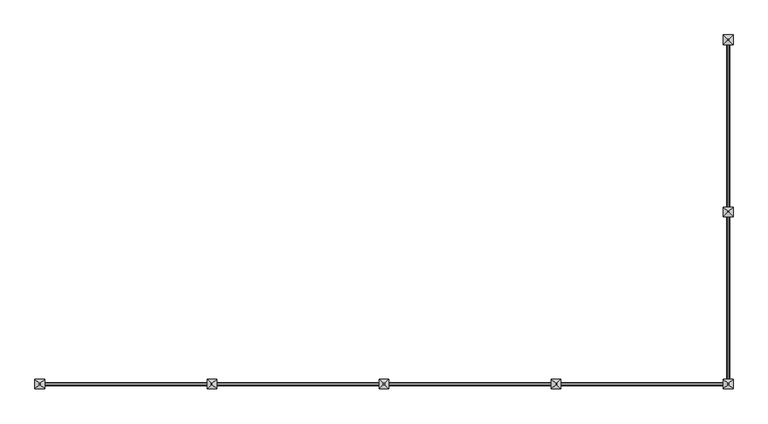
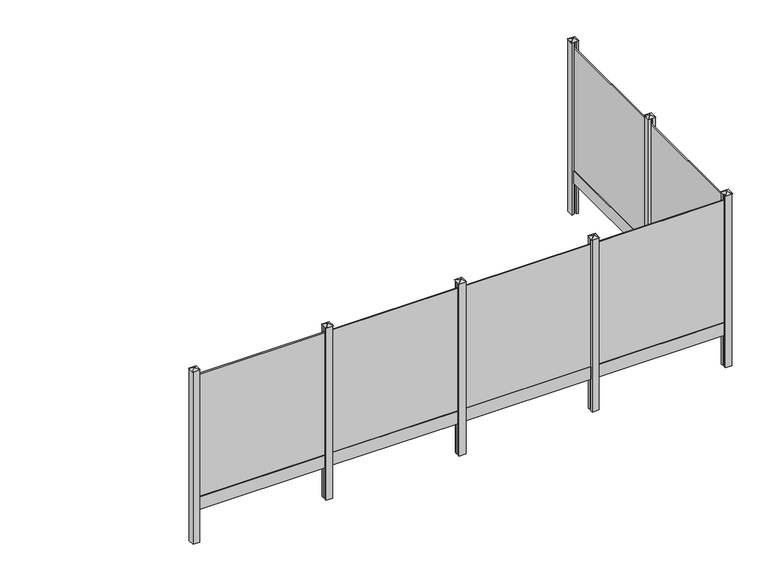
"""IFC4 building model written with IfcOpenShell, lengths in millimetres: railing geometry, Mehat - Railing - Plaque de Soubassement - Pour clôture composite - 196x20x3.5/1.8 cm."""

from ifc_helpers import new_model, si_unit, frame, origin, origin_with_axes, place, context, project, spatial, polyline, outline, extrude, faceted_brep, source, transform, mapped, element, save


def railing_a0a83704(model_context):
    return source(origin(), model_context, "Body", "SolidModel", [
        extrude(outline(polyline([(-1103.7483484, 8632.5056064), (-1120.7483484, 8632.5056064), (-1120.7483484, 10592.5056064), (-1103.7483484, 10592.5056064), (-1103.7483484, 8632.5056064)])), frame((0.0, 0.0, 200.0), z_axis=(0.0, 0.0, 1.0), x_axis=(1.0, 0.0, 0.0)), (0.0, 0.0, 1.0), 1950.0),
        extrude(outline(polyline([(-1129.7483484, 10592.5056064), (-1111.7483484, 10592.5056064), (-1094.7483484, 10567.5056064), (-1094.7483484, 8657.5056064), (-1111.7483484, 8632.5056064), (-1129.7483484, 8632.5056064), (-1129.7483484, 10592.5056064)])), origin_with_axes(), (0.0, 0.0, 1.0), 200.0),
        extrude(outline(polyline([(-1062.2483484, 8557.5056064), (-1094.7483484, 8557.5056064), (-1094.7483484, 8582.5056064), (-1129.7483484, 8582.5056064), (-1129.7483484, 8557.5056064), (-1162.2483484, 8557.5056064), (-1162.2483484, 8657.5056064), (-1129.7483484, 8657.5056064), (-1129.7483484, 8632.5056064), (-1094.7483484, 8632.5056064), (-1094.7483484, 8657.5056064), (-1062.2483484, 8657.5056064), (-1062.2483484, 8557.5056064)])), frame((0.0, 0.0, -500.0), z_axis=(0.0, 0.0, 1.0), x_axis=(1.0, 0.0, 0.0)), (0.0, 0.0, 1.0), 2750.0),
        faceted_brep([(-1118.6528945, 8613.8556064, 2275.4), (-1118.6528945, 8601.1556064, 2275.4), (-1105.9528945, 8601.1556064, 2275.4), (-1105.9528945, 8613.8556064, 2275.4), (-1168.5983484, 8663.8556064, 2250.0), (-1055.8983484, 8663.8556064, 2250.0), (-1055.8983484, 8551.1556064, 2250.0), (-1168.5983484, 8551.1556064, 2250.0)], [[[0, 1, 2, 3]], [[4, 5, 6, 7]], [[4, 0, 3, 5]], [[5, 3, 2, 6]], [[6, 2, 1, 7]], [[7, 1, 0, 4]]]),
        extrude(outline(polyline([(-1103.7483484, 6622.5056064), (-1120.7483484, 6622.5056064), (-1120.7483484, 8582.5056064), (-1103.7483484, 8582.5056064), (-1103.7483484, 6622.5056064)])), frame((0.0, 0.0, 200.0), z_axis=(0.0, 0.0, 1.0), x_axis=(1.0, 0.0, 0.0)), (0.0, 0.0, 1.0), 1950.0),
        extrude(outline(polyline([(-1129.7483484, 8582.5056064), (-1111.7483484, 8582.5056064), (-1094.7483484, 8557.5056064), (-1094.7483484, 6647.5056064), (-1111.7483484, 6622.5056064), (-1129.7483484, 6622.5056064), (-1129.7483484, 8582.5056064)])), origin_with_axes(), (0.0, 0.0, 1.0), 200.0),
        extrude(outline(polyline([(-3097.2483484, 6589.0056064), (-3097.2483484, 6606.0056064), (-1137.2483484, 6606.0056064), (-1137.2483484, 6589.0056064), (-3097.2483484, 6589.0056064)])), frame((0.0, 0.0, 200.0), z_axis=(0.0, 0.0, 1.0), x_axis=(1.0, 0.0, 0.0)), (0.0, 0.0, 1.0), 1950.0),
        extrude(outline(polyline([(-1137.2483484, 6615.0056064), (-1137.2483484, 6597.0056064), (-1162.2483484, 6580.0056064), (-3072.2483484, 6580.0056064), (-3097.2483484, 6597.0056064), (-3097.2483484, 6615.0056064), (-1137.2483484, 6615.0056064)])), origin_with_axes(), (0.0, 0.0, 1.0), 200.0),
        extrude(outline(polyline([(-3172.2483484, 6547.5056064), (-3172.2483484, 6580.0056064), (-3147.2483484, 6580.0056064), (-3147.2483484, 6615.0056064), (-3172.2483484, 6615.0056064), (-3172.2483484, 6647.5056064), (-3072.2483484, 6647.5056064), (-3072.2483484, 6615.0056064), (-3097.2483484, 6615.0056064), (-3097.2483484, 6580.0056064), (-3072.2483484, 6580.0056064), (-3072.2483484, 6547.5056064), (-3172.2483484, 6547.5056064)])), frame((0.0, 0.0, -500.0), z_axis=(0.0, 0.0, 1.0), x_axis=(1.0, 0.0, 0.0)), (0.0, 0.0, 1.0), 2750.0),
        faceted_brep([(-3115.8983484, 6603.9101525, 2275.4), (-3128.5983484, 6603.9101525, 2275.4), (-3128.5983484, 6591.2101525, 2275.4), (-3115.8983484, 6591.2101525, 2275.4), (-3065.8983484, 6653.8556064, 2250.0), (-3065.8983484, 6541.1556064, 2250.0), (-3178.5983484, 6541.1556064, 2250.0), (-3178.5983484, 6653.8556064, 2250.0)], [[[0, 1, 2, 3]], [[4, 5, 6, 7]], [[4, 0, 3, 5]], [[5, 3, 2, 6]], [[6, 2, 1, 7]], [[7, 1, 0, 4]]]),
        extrude(outline(polyline([(-5107.2483484, 6589.0056064), (-5107.2483484, 6606.0056064), (-3147.2483484, 6606.0056064), (-3147.2483484, 6589.0056064), (-5107.2483484, 6589.0056064)])), frame((0.0, 0.0, 200.0), z_axis=(0.0, 0.0, 1.0), x_axis=(1.0, 0.0, 0.0)), (0.0, 0.0, 1.0), 1950.0),
        extrude(outline(polyline([(-3147.2483484, 6615.0056064), (-3147.2483484, 6597.0056064), (-3172.2483484, 6580.0056064), (-5082.2483484, 6580.0056064), (-5107.2483484, 6597.0056064), (-5107.2483484, 6615.0056064), (-3147.2483484, 6615.0056064)])), origin_with_axes(), (0.0, 0.0, 1.0), 200.0),
        extrude(outline(polyline([(-5182.2483484, 6547.5056064), (-5182.2483484, 6580.0056064), (-5157.2483484, 6580.0056064), (-5157.2483484, 6615.0056064), (-5182.2483484, 6615.0056064), (-5182.2483484, 6647.5056064), (-5082.2483484, 6647.5056064), (-5082.2483484, 6615.0056064), (-5107.2483484, 6615.0056064), (-5107.2483484, 6580.0056064), (-5082.2483484, 6580.0056064), (-5082.2483484, 6547.5056064), (-5182.2483484, 6547.5056064)])), frame((0.0, 0.0, -500.0), z_axis=(0.0, 0.0, 1.0), x_axis=(1.0, 0.0, 0.0)), (0.0, 0.0, 1.0), 2750.0),
        faceted_brep([(-5125.8983484, 6603.9101525, 2275.4), (-5138.5983484, 6603.9101525, 2275.4), (-5138.5983484, 6591.2101525, 2275.4), (-5125.8983484, 6591.2101525, 2275.4), (-5075.8983484, 6653.8556064, 2250.0), (-5075.8983484, 6541.1556064, 2250.0), (-5188.5983484, 6541.1556064, 2250.0), (-5188.5983484, 6653.8556064, 2250.0)], [[[0, 1, 2, 3]], [[4, 5, 6, 7]], [[4, 0, 3, 5]], [[5, 3, 2, 6]], [[6, 2, 1, 7]], [[7, 1, 0, 4]]]),
        extrude(outline(polyline([(-7117.2483484, 6589.0056064), (-7117.2483484, 6606.0056064), (-5157.2483484, 6606.0056064), (-5157.2483484, 6589.0056064), (-7117.2483484, 6589.0056064)])), frame((0.0, 0.0, 200.0), z_axis=(0.0, 0.0, 1.0), x_axis=(1.0, 0.0, 0.0)), (0.0, 0.0, 1.0), 1950.0),
        extrude(outline(polyline([(-5157.2483484, 6615.0056064), (-5157.2483484, 6597.0056064), (-5182.2483484, 6580.0056064), (-7092.2483484, 6580.0056064), (-7117.2483484, 6597.0056064), (-7117.2483484, 6615.0056064), (-5157.2483484, 6615.0056064)])), origin_with_axes(), (0.0, 0.0, 1.0), 200.0),
        extrude(outline(polyline([(-7192.2483484, 6547.5056064), (-7192.2483484, 6580.0056064), (-7167.2483484, 6580.0056064), (-7167.2483484, 6615.0056064), (-7192.2483484, 6615.0056064), (-7192.2483484, 6647.5056064), (-7092.2483484, 6647.5056064), (-7092.2483484, 6615.0056064), (-7117.2483484, 6615.0056064), (-7117.2483484, 6580.0056064), (-7092.2483484, 6580.0056064), (-7092.2483484, 6547.5056064), (-7192.2483484, 6547.5056064)])), frame((0.0, 0.0, -500.0), z_axis=(0.0, 0.0, 1.0), x_axis=(1.0, 0.0, 0.0)), (0.0, 0.0, 1.0), 2750.0),
        faceted_brep([(-7135.8983484, 6603.9101525, 2275.4), (-7148.5983484, 6603.9101525, 2275.4), (-7148.5983484, 6591.2101525, 2275.4), (-7135.8983484, 6591.2101525, 2275.4), (-7085.8983484, 6653.8556064, 2250.0), (-7085.8983484, 6541.1556064, 2250.0), (-7198.5983484, 6541.1556064, 2250.0), (-7198.5983484, 6653.8556064, 2250.0)], [[[0, 1, 2, 3]], [[4, 5, 6, 7]], [[4, 0, 3, 5]], [[5, 3, 2, 6]], [[6, 2, 1, 7]], [[7, 1, 0, 4]]]),
        extrude(outline(polyline([(-9127.2483484, 6589.0056064), (-9127.2483484, 6606.0056064), (-7167.2483484, 6606.0056064), (-7167.2483484, 6589.0056064), (-9127.2483484, 6589.0056064)])), frame((0.0, 0.0, 200.0), z_axis=(0.0, 0.0, 1.0), x_axis=(1.0, 0.0, 0.0)), (0.0, 0.0, 1.0), 1950.0),
        extrude(outline(polyline([(-7167.2483484, 6615.0056064), (-7167.2483484, 6597.0056064), (-7192.2483484, 6580.0056064), (-9102.2483484, 6580.0056064), (-9127.2483484, 6597.0056064), (-9127.2483484, 6615.0056064), (-7167.2483484, 6615.0056064)])), origin_with_axes(), (0.0, 0.0, 1.0), 200.0),
        extrude(outline(polyline([(-1162.2483484, 6547.5056064), (-1162.2483484, 6580.0056064), (-1137.2483484, 6580.0056064), (-1137.2483484, 6615.0056064), (-1162.2483484, 6615.0056064), (-1162.2483484, 6647.5056064), (-1129.7483484, 6647.5056064), (-1129.7483484, 6622.5056064), (-1094.7483484, 6622.5056064), (-1094.7483484, 6647.5056064), (-1062.2483484, 6647.5056064), (-1062.2483484, 6547.5056064), (-1162.2483484, 6547.5056064)])), frame((0.0, 0.0, -500.0), z_axis=(0.0, 0.0, 1.0), x_axis=(1.0, 0.0, 0.0)), (0.0, 0.0, 1.0), 2750.0),
        faceted_brep([(-1105.8983484, 6603.9101525, 2275.4), (-1118.5983484, 6603.9101525, 2275.4), (-1118.5983484, 6591.2101525, 2275.4), (-1105.8983484, 6591.2101525, 2275.4), (-1055.8983484, 6653.8556064, 2250.0), (-1055.8983484, 6541.1556064, 2250.0), (-1168.5983484, 6541.1556064, 2250.0), (-1168.5983484, 6653.8556064, 2250.0)], [[[0, 1, 2, 3]], [[4, 5, 6, 7]], [[4, 0, 3, 5]], [[5, 3, 2, 6]], [[6, 2, 1, 7]], [[7, 1, 0, 4]]]),
        extrude(outline(polyline([(-1062.2483484, 10567.5056064), (-1094.7483484, 10567.5056064), (-1094.7483484, 10592.5056064), (-1129.7483484, 10592.5056064), (-1129.7483484, 10567.5056064), (-1162.2483484, 10567.5056064), (-1162.2483484, 10667.5056064), (-1062.2483484, 10667.5056064), (-1062.2483484, 10567.5056064)])), frame((0.0, 0.0, -500.0), z_axis=(0.0, 0.0, 1.0), x_axis=(1.0, 0.0, 0.0)), (0.0, 0.0, 1.0), 2750.0),
        faceted_brep([(-1118.6528945, 10623.8556064, 2275.4), (-1118.6528945, 10611.1556064, 2275.4), (-1105.9528945, 10611.1556064, 2275.4), (-1105.9528945, 10623.8556064, 2275.4), (-1168.5983484, 10673.8556064, 2250.0), (-1055.8983484, 10673.8556064, 2250.0), (-1055.8983484, 10561.1556064, 2250.0), (-1168.5983484, 10561.1556064, 2250.0)], [[[0, 1, 2, 3]], [[4, 5, 6, 7]], [[4, 0, 3, 5]], [[5, 3, 2, 6]], [[6, 2, 1, 7]], [[7, 1, 0, 4]]]),
        extrude(outline(polyline([(-9202.2483484, 6547.5056064), (-9202.2483484, 6647.5056064), (-9102.2483484, 6647.5056064), (-9102.2483484, 6615.0056064), (-9127.2483484, 6615.0056064), (-9127.2483484, 6580.0056064), (-9102.2483484, 6580.0056064), (-9102.2483484, 6547.5056064), (-9202.2483484, 6547.5056064)])), frame((0.0, 0.0, -500.0), z_axis=(0.0, 0.0, 1.0), x_axis=(1.0, 0.0, 0.0)), (0.0, 0.0, 1.0), 2750.0),
        faceted_brep([(-9145.8983484, 6603.9101525, 2275.4), (-9158.5983484, 6603.9101525, 2275.4), (-9158.5983484, 6591.2101525, 2275.4), (-9145.8983484, 6591.2101525, 2275.4), (-9095.8983484, 6653.8556064, 2250.0), (-9095.8983484, 6541.1556064, 2250.0), (-9208.5983484, 6541.1556064, 2250.0), (-9208.5983484, 6653.8556064, 2250.0)], [[[0, 1, 2, 3]], [[4, 5, 6, 7]], [[4, 0, 3, 5]], [[5, 3, 2, 6]], [[6, 2, 1, 7]], [[7, 1, 0, 4]]]),
    ])


if __name__ == "__main__":
    model = new_model("IFC4")
    model_context = context("Model", 3, world=origin())
    ifc_project = project(units=[si_unit("LENGTHUNIT", "METRE", prefix="MILLI")], contexts=[model_context])
    site = spatial("IfcSite", under=ifc_project)
    building = spatial("IfcBuilding", under=site)
    placement = place(None, origin())
    railing_shape = railing_a0a83704(model_context)
    element("IfcRailing", 1, ObjectType="Mehat - Railing - Plaque de Soubassement - Pour clôture composite - 196x20x3.5/1.8 cm", at=placement, inside=building, context=model_context, shape_type="MappedRepresentation", body=[
        mapped(railing_shape, transform((0.0, 0.0, 0.0), x_axis=(1.0, 0.0, 0.0), y_axis=(0.0, 1.0, 0.0), z_axis=(0.0, 0.0, 1.0))),
    ])
    save(model, "model.ifc")
